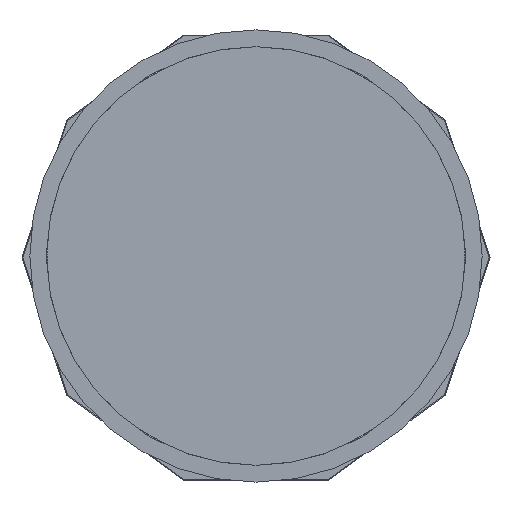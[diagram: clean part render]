
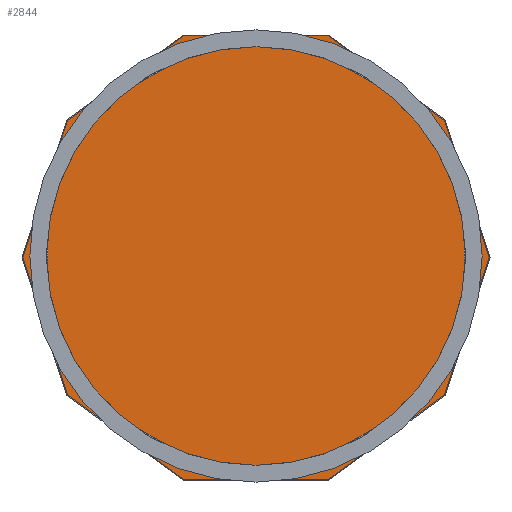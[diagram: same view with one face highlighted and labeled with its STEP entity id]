
A CAD part, front view. The second image highlights one B-rep face of the part: STEP entity #2844.
In plain terms, the highlighted planar face has unit normal (0, -1, 0).
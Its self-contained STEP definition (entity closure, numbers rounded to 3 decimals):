
#2224=DIRECTION('',(0.309,0.,-0.951));
#2225=VECTOR('',#2224,342.465);
#2226=CARTESIAN_POINT('',(-554.121,52.75,-4.));
#2227=LINE('',#2226,#2225);
#2232=DIRECTION('',(-0.309,0.,-0.951));
#2233=VECTOR('',#2232,342.465);
#2234=CARTESIAN_POINT('',(-448.293,52.75,321.704));
#2235=LINE('',#2234,#2233);
#2240=DIRECTION('',(-0.809,0.,-0.588));
#2241=VECTOR('',#2240,342.465);
#2242=CARTESIAN_POINT('',(-171.233,52.75,523.));
#2243=LINE('',#2242,#2241);
#2248=DIRECTION('',(-1.,0.,0.));
#2249=VECTOR('',#2248,342.465);
#2250=CARTESIAN_POINT('',(171.233,52.75,523.));
#2251=LINE('',#2250,#2249);
#2256=DIRECTION('',(-0.809,0.,0.588));
#2257=VECTOR('',#2256,342.465);
#2258=CARTESIAN_POINT('',(448.293,52.75,321.704));
#2259=LINE('',#2258,#2257);
#2264=DIRECTION('',(-0.309,0.,0.951));
#2265=VECTOR('',#2264,342.465);
#2266=CARTESIAN_POINT('',(554.121,52.75,-4.));
#2267=LINE('',#2266,#2265);
#2272=DIRECTION('',(0.309,0.,0.951));
#2273=VECTOR('',#2272,342.465);
#2274=CARTESIAN_POINT('',(448.293,52.75,-329.704));
#2275=LINE('',#2274,#2273);
#2280=DIRECTION('',(0.809,0.,0.588));
#2281=VECTOR('',#2280,342.465);
#2282=CARTESIAN_POINT('',(171.233,52.75,-531.));
#2283=LINE('',#2282,#2281);
#2288=DIRECTION('',(1.,0.,0.));
#2289=VECTOR('',#2288,342.465);
#2290=CARTESIAN_POINT('',(-171.233,52.75,-531.));
#2291=LINE('',#2290,#2289);
#2296=DIRECTION('',(0.809,0.,-0.588));
#2297=VECTOR('',#2296,342.465);
#2298=CARTESIAN_POINT('',(-448.293,52.75,-329.704));
#2299=LINE('',#2298,#2297);
#2463=CARTESIAN_POINT('',(-554.121,52.75,-4.));
#2464=CARTESIAN_POINT('',(-448.293,52.75,-329.704));
#2465=VERTEX_POINT('',#2463);
#2466=VERTEX_POINT('',#2464);
#2467=CARTESIAN_POINT('',(-171.233,52.75,-531.));
#2468=VERTEX_POINT('',#2467);
#2469=CARTESIAN_POINT('',(171.233,52.75,-531.));
#2470=VERTEX_POINT('',#2469);
#2471=CARTESIAN_POINT('',(448.293,52.75,-329.704));
#2472=VERTEX_POINT('',#2471);
#2473=CARTESIAN_POINT('',(554.121,52.75,-4.));
#2474=VERTEX_POINT('',#2473);
#2475=CARTESIAN_POINT('',(448.293,52.75,321.704));
#2476=VERTEX_POINT('',#2475);
#2477=CARTESIAN_POINT('',(171.233,52.75,523.));
#2478=VERTEX_POINT('',#2477);
#2479=CARTESIAN_POINT('',(-171.233,52.75,523.));
#2480=VERTEX_POINT('',#2479);
#2481=CARTESIAN_POINT('',(-448.293,52.75,321.704));
#2482=VERTEX_POINT('',#2481);
#2818=CARTESIAN_POINT('',(0.,52.75,0.));
#2819=DIRECTION('',(0.,1.,0.));
#2820=DIRECTION('',(1.,0.,0.));
#2821=AXIS2_PLACEMENT_3D('',#2818,#2819,#2820);
#2822=PLANE('',#2821);
#2823=ORIENTED_EDGE('',*,*,#2808,.F.);
#2825=ORIENTED_EDGE('',*,*,#2824,.F.);
#2827=ORIENTED_EDGE('',*,*,#2826,.F.);
#2829=ORIENTED_EDGE('',*,*,#2828,.F.);
#2831=ORIENTED_EDGE('',*,*,#2830,.F.);
#2833=ORIENTED_EDGE('',*,*,#2832,.F.);
#2835=ORIENTED_EDGE('',*,*,#2834,.F.);
#2837=ORIENTED_EDGE('',*,*,#2836,.F.);
#2839=ORIENTED_EDGE('',*,*,#2838,.F.);
#2841=ORIENTED_EDGE('',*,*,#2840,.F.);
#2842=EDGE_LOOP('',(#2823,#2825,#2827,#2829,#2831,#2833,#2835,#2837,#2839,
#2841));
#2843=FACE_OUTER_BOUND('',#2842,.F.);
#2808=EDGE_CURVE('',#2465,#2466,#2227,.T.);
#2824=EDGE_CURVE('',#2482,#2465,#2235,.T.);
#2826=EDGE_CURVE('',#2480,#2482,#2243,.T.);
#2828=EDGE_CURVE('',#2478,#2480,#2251,.T.);
#2830=EDGE_CURVE('',#2476,#2478,#2259,.T.);
#2832=EDGE_CURVE('',#2474,#2476,#2267,.T.);
#2834=EDGE_CURVE('',#2472,#2474,#2275,.T.);
#2836=EDGE_CURVE('',#2470,#2472,#2283,.T.);
#2838=EDGE_CURVE('',#2468,#2470,#2291,.T.);
#2840=EDGE_CURVE('',#2466,#2468,#2299,.T.);
#2844=ADVANCED_FACE('',(#2843),#2822,.F.);
